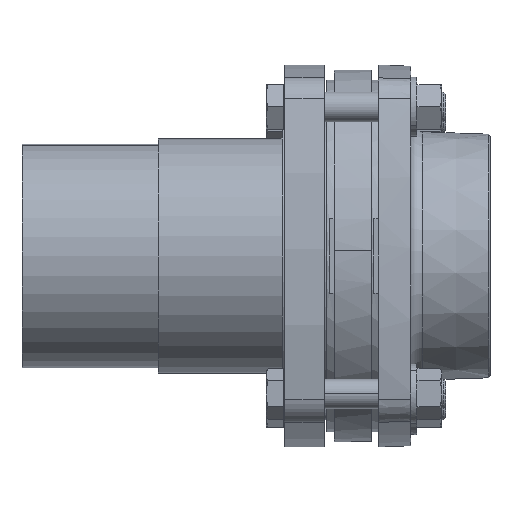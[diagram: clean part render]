
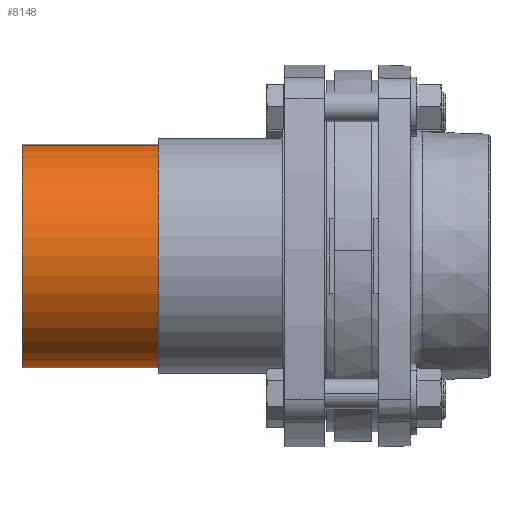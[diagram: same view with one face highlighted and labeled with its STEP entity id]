
A CAD part, front view. The second image highlights one B-rep face of the part: STEP entity #8148.
In plain terms, the highlighted cylindrical face has radius 45.2 mm (diameter 90.4 mm), a partial arc.
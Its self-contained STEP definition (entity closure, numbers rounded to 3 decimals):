
#350 = EDGE_CURVE ( 'NONE', #794, #788, #1171, .T. ) ;
#788 = VERTEX_POINT ( 'NONE', #10333 ) ;
#793 = VERTEX_POINT ( 'NONE', #10335 ) ;
#794 = VERTEX_POINT ( 'NONE', #10331 ) ;
#795 = VERTEX_POINT ( 'NONE', #10336 ) ;
#1171 = CIRCLE ( 'NONE', #1176, 45.2 ) ;
#1176 = AXIS2_PLACEMENT_3D ( 'NONE', #10634, #10635, #10636 ) ;
#3095 = AXIS2_PLACEMENT_3D ( 'NONE', #5473, #5469, #5476 ) ;
#3656 = CARTESIAN_POINT ( 'NONE',  ( -18., 0., 0. ) ) ;
#3657 = DIRECTION ( 'NONE',  ( -1., 0., 0. ) ) ;
#3658 = DIRECTION ( 'NONE',  ( 0., -0.174, 0.985 ) ) ;
#3832 = CIRCLE ( 'NONE', #3837, 45.2 ) ;
#3837 = AXIS2_PLACEMENT_3D ( 'NONE', #3656, #3657, #3658 ) ;
#3928 = VECTOR ( 'NONE', #4126, 1000. ) ;
#3953 = VECTOR ( 'NONE', #4205, 1000. ) ;
#4115 = CARTESIAN_POINT ( 'NONE',  ( -123., 7.886, -44.507 ) ) ;
#4119 = LINE ( 'NONE', #4115, #3928 ) ;
#4126 = DIRECTION ( 'NONE',  ( 1., 0., 0. ) ) ;
#4196 = CARTESIAN_POINT ( 'NONE',  ( -123., -7.886, 44.507 ) ) ;
#4201 = LINE ( 'NONE', #4196, #3953 ) ;
#4205 = DIRECTION ( 'NONE',  ( 1., 0., 0. ) ) ;
#5469 = DIRECTION ( 'NONE',  ( 1., 0., 0. ) ) ;
#5472 = FACE_OUTER_BOUND ( 'NONE', #9685, .T. ) ;
#5473 = CARTESIAN_POINT ( 'NONE',  ( -123., 0., 0. ) ) ;
#5475 = CYLINDRICAL_SURFACE ( 'NONE', #3095, 45.2 ) ;
#5476 = DIRECTION ( 'NONE',  ( 0., 0.174, -0.985 ) ) ;
#8148 = ADVANCED_FACE ( 'NONE', ( #5472 ), #5475, .T. ) ;
#9240 = EDGE_CURVE ( 'NONE', #795, #793, #3832, .T. ) ;
#9299 = EDGE_CURVE ( 'NONE', #794, #795, #4119, .T. ) ;
#9594 = ORIENTED_EDGE ( 'NONE', *, *, #9813, .F. ) ;
#9596 = ORIENTED_EDGE ( 'NONE', *, *, #350, .F. ) ;
#9598 = ORIENTED_EDGE ( 'NONE', *, *, #9299, .T. ) ;
#9600 = ORIENTED_EDGE ( 'NONE', *, *, #9240, .T. ) ;
#9685 = EDGE_LOOP ( 'NONE', ( #9594, #9596, #9598, #9600 ) ) ;
#9813 = EDGE_CURVE ( 'NONE', #788, #793, #4201, .T. ) ;
#10331 = CARTESIAN_POINT ( 'NONE',  ( -123., 7.886, -44.507 ) ) ;
#10333 = CARTESIAN_POINT ( 'NONE',  ( -123., -7.886, 44.507 ) ) ;
#10335 = CARTESIAN_POINT ( 'NONE',  ( -18., -7.886, 44.507 ) ) ;
#10336 = CARTESIAN_POINT ( 'NONE',  ( -18., 7.886, -44.507 ) ) ;
#10634 = CARTESIAN_POINT ( 'NONE',  ( -123., 0., 0. ) ) ;
#10635 = DIRECTION ( 'NONE',  ( -1., 0., 0. ) ) ;
#10636 = DIRECTION ( 'NONE',  ( 0., -0.174, 0.985 ) ) ;
